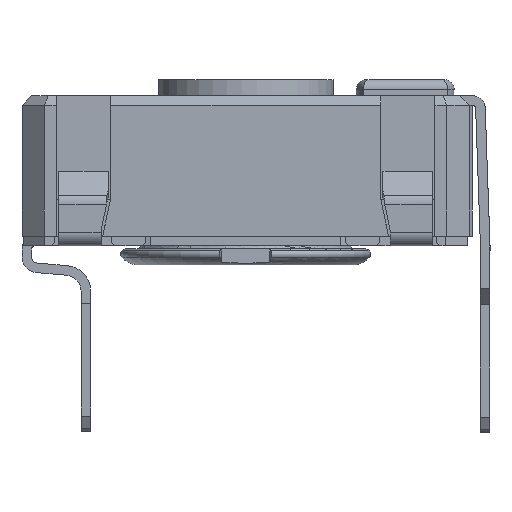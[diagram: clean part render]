
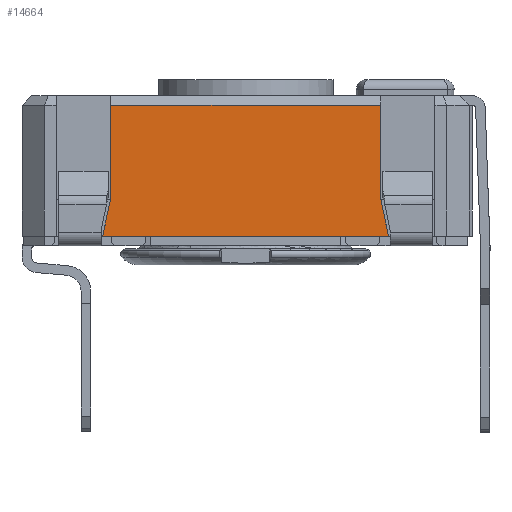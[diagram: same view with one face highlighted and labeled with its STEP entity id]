
A CAD part, left-side view. The second image highlights one B-rep face of the part: STEP entity #14664.
In plain terms, the highlighted planar face has unit normal (-1, 0, 0).
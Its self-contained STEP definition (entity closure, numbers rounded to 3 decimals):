
#1256=FACE_OUTER_BOUND('',#2014,.T.);
#2014=EDGE_LOOP('',(#11952,#11953,#11954,#11955,#11956,#11957));
#2564=LINE('',#20739,#4158);
#3182=LINE('',#22634,#4776);
#3186=LINE('',#22641,#4780);
#3534=LINE('',#23388,#5128);
#3539=LINE('',#23396,#5133);
#3540=LINE('',#23398,#5134);
#4158=VECTOR('',#16691,10.);
#4776=VECTOR('',#18199,10.);
#4780=VECTOR('',#18205,10.);
#5128=VECTOR('',#18937,10.);
#5133=VECTOR('',#18944,10.);
#5134=VECTOR('',#18947,10.);
#5691=VERTEX_POINT('',#20736);
#5692=VERTEX_POINT('',#20738);
#6281=VERTEX_POINT('',#22631);
#6282=VERTEX_POINT('',#22633);
#6284=VERTEX_POINT('',#22639);
#6477=VERTEX_POINT('',#23394);
#7142=EDGE_CURVE('',#5691,#5692,#2564,.T.);
#7978=EDGE_CURVE('',#6281,#6282,#3182,.T.);
#7982=EDGE_CURVE('',#6281,#6284,#3186,.T.);
#8354=EDGE_CURVE('',#5692,#6284,#3534,.T.);
#8359=EDGE_CURVE('',#6477,#5691,#3539,.T.);
#8360=EDGE_CURVE('',#6477,#6282,#3540,.T.);
#11952=ORIENTED_EDGE('',*,*,#7978,.F.);
#11953=ORIENTED_EDGE('',*,*,#7982,.T.);
#11954=ORIENTED_EDGE('',*,*,#8354,.F.);
#11955=ORIENTED_EDGE('',*,*,#7142,.F.);
#11956=ORIENTED_EDGE('',*,*,#8359,.F.);
#11957=ORIENTED_EDGE('',*,*,#8360,.T.);
#13258=PLANE('',#15685);
#14664=ADVANCED_FACE('',(#1256),#13258,.T.);
#15685=AXIS2_PLACEMENT_3D('',#23432,#18993,#18994);
#16691=DIRECTION('',(0.,1.,0.));
#18199=DIRECTION('',(0.,-1.,0.));
#18205=DIRECTION('',(0.,0.,-1.));
#18937=DIRECTION('',(0.,-0.208,0.978));
#18944=DIRECTION('',(0.,-0.208,-0.978));
#18947=DIRECTION('',(0.,0.,1.));
#18993=DIRECTION('center_axis',(-1.,0.,0.));
#18994=DIRECTION('ref_axis',(0.,0.,1.));
#20736=CARTESIAN_POINT('',(-28.215,10.179,0.));
#20738=CARTESIAN_POINT('',(-28.215,19.129,0.));
#20739=CARTESIAN_POINT('',(-28.215,8.354,0.));
#22631=CARTESIAN_POINT('',(-28.215,18.879,4.1));
#22633=CARTESIAN_POINT('',(-28.215,10.429,4.1));
#22634=CARTESIAN_POINT('',(-28.215,11.504,4.1));
#22639=CARTESIAN_POINT('',(-28.215,18.879,1.176));
#22641=CARTESIAN_POINT('',(-28.215,18.879,0.));
#23388=CARTESIAN_POINT('',(-28.215,19.129,0.));
#23394=CARTESIAN_POINT('',(-28.215,10.429,1.176));
#23396=CARTESIAN_POINT('',(-28.215,10.429,1.176));
#23398=CARTESIAN_POINT('',(-28.215,10.429,0.));
#23432=CARTESIAN_POINT('Origin',(-28.215,8.354,0.));
